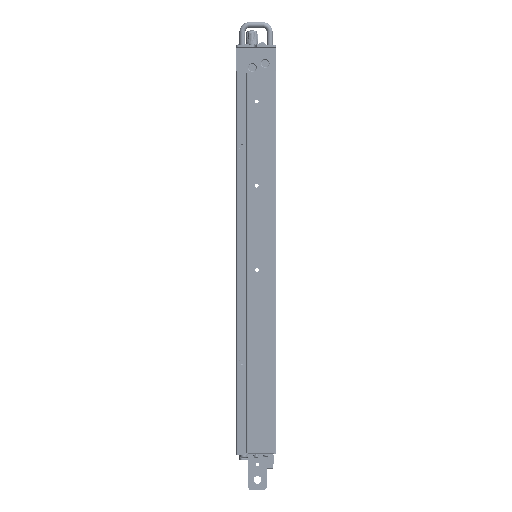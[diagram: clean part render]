
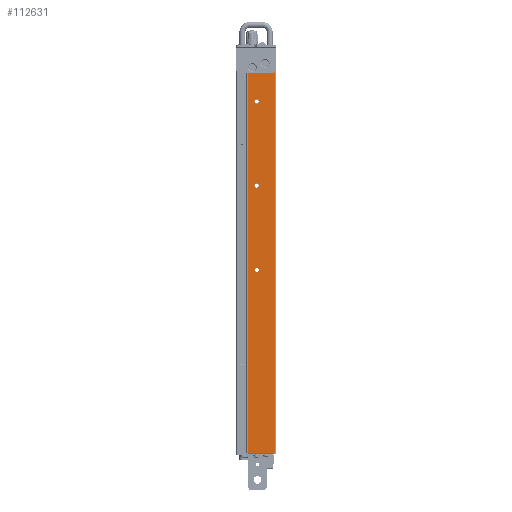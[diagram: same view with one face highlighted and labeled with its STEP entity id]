
A CAD part, left-side view. The second image highlights one B-rep face of the part: STEP entity #112631.
In plain terms, the highlighted planar face has unit normal (-1, 0, 0).
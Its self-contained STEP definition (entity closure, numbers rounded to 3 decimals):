
#100436=DIRECTION('',(0.,0.,-1.));
#100437=VECTOR('',#100436,433.8);
#100438=CARTESIAN_POINT('',(-211.5,1.5,0.));
#100439=LINE('',#100438,#100437);
#100522=DIRECTION('',(0.,-1.,0.));
#100523=VECTOR('',#100522,29.5);
#100524=CARTESIAN_POINT('',(-211.5,31.,0.));
#100525=LINE('',#100524,#100523);
#100534=DIRECTION('',(0.,0.,-1.));
#100535=VECTOR('',#100534,433.8);
#100536=CARTESIAN_POINT('',(-211.5,31.,0.));
#100537=LINE('',#100536,#100535);
#100538=CARTESIAN_POINT('',(-211.5,25.4,-4.7));
#100539=DIRECTION('',(1.,0.,0.));
#100540=DIRECTION('',(0.,0.,-1.));
#100541=AXIS2_PLACEMENT_3D('',#100538,#100539,#100540);
#100543=CARTESIAN_POINT('',(-211.5,25.4,-4.7));
#100544=DIRECTION('',(1.,0.,0.));
#100545=DIRECTION('',(0.,0.,1.));
#100546=AXIS2_PLACEMENT_3D('',#100543,#100544,#100545);
#100548=CARTESIAN_POINT('',(-211.5,25.8,-12.8));
#100549=DIRECTION('',(1.,0.,0.));
#100550=DIRECTION('',(0.,0.,1.));
#100551=AXIS2_PLACEMENT_3D('',#100548,#100549,#100550);
#100553=CARTESIAN_POINT('',(-211.5,25.8,-12.8));
#100554=DIRECTION('',(1.,0.,0.));
#100555=DIRECTION('',(0.,0.,-1.));
#100556=AXIS2_PLACEMENT_3D('',#100553,#100554,#100555);
#100558=CARTESIAN_POINT('',(-211.5,11.8,-8.3));
#100559=DIRECTION('',(1.,0.,0.));
#100560=DIRECTION('',(0.,0.,1.));
#100561=AXIS2_PLACEMENT_3D('',#100558,#100559,#100560);
#100563=CARTESIAN_POINT('',(-211.5,11.8,-8.3));
#100564=DIRECTION('',(1.,0.,0.));
#100565=DIRECTION('',(0.,0.,-1.));
#100566=AXIS2_PLACEMENT_3D('',#100563,#100564,#100565);
#100568=CARTESIAN_POINT('',(-211.5,21.,-49.8));
#100569=DIRECTION('',(1.,0.,0.));
#100570=DIRECTION('',(0.,0.,1.));
#100571=AXIS2_PLACEMENT_3D('',#100568,#100569,#100570);
#100573=CARTESIAN_POINT('',(-211.5,21.,-49.8));
#100574=DIRECTION('',(1.,0.,0.));
#100575=DIRECTION('',(0.,0.,-1.));
#100576=AXIS2_PLACEMENT_3D('',#100573,#100574,#100575);
#100578=CARTESIAN_POINT('',(-211.5,21.,-141.8));
#100579=DIRECTION('',(1.,0.,0.));
#100580=DIRECTION('',(0.,0.,1.));
#100581=AXIS2_PLACEMENT_3D('',#100578,#100579,#100580);
#100583=CARTESIAN_POINT('',(-211.5,21.,-141.8));
#100584=DIRECTION('',(1.,0.,0.));
#100585=DIRECTION('',(0.,0.,-1.));
#100586=AXIS2_PLACEMENT_3D('',#100583,#100584,#100585);
#100588=CARTESIAN_POINT('',(-211.5,21.,-233.8));
#100589=DIRECTION('',(1.,0.,0.));
#100590=DIRECTION('',(0.,0.,1.));
#100591=AXIS2_PLACEMENT_3D('',#100588,#100589,#100590);
#100593=CARTESIAN_POINT('',(-211.5,21.,-233.8));
#100594=DIRECTION('',(1.,0.,0.));
#100595=DIRECTION('',(0.,0.,-1.));
#100596=AXIS2_PLACEMENT_3D('',#100593,#100594,#100595);
#100598=DIRECTION('',(0.,-1.,0.));
#100599=VECTOR('',#100598,29.5);
#100600=CARTESIAN_POINT('',(-211.5,31.,-433.8));
#100601=LINE('',#100600,#100599);
#102004=CARTESIAN_POINT('',(-211.5,31.,0.));
#102005=CARTESIAN_POINT('',(-211.5,1.5,0.));
#102006=VERTEX_POINT('',#102004);
#102007=VERTEX_POINT('',#102005);
#102012=CARTESIAN_POINT('',(-211.5,31.,-433.8));
#102013=CARTESIAN_POINT('',(-211.5,1.5,-433.8));
#102014=VERTEX_POINT('',#102012);
#102015=VERTEX_POINT('',#102013);
#102640=CARTESIAN_POINT('',(-211.5,25.4,-8.15));
#102641=CARTESIAN_POINT('',(-211.5,25.4,-1.25));
#102642=VERTEX_POINT('',#102640);
#102643=VERTEX_POINT('',#102641);
#102672=CARTESIAN_POINT('',(-211.5,25.8,-11.15));
#102673=CARTESIAN_POINT('',(-211.5,25.8,-14.45));
#102674=VERTEX_POINT('',#102672);
#102675=VERTEX_POINT('',#102673);
#102676=CARTESIAN_POINT('',(-211.5,11.8,-6.65));
#102677=CARTESIAN_POINT('',(-211.5,11.8,-9.95));
#102678=VERTEX_POINT('',#102676);
#102679=VERTEX_POINT('',#102677);
#103456=CARTESIAN_POINT('',(-211.5,21.,-47.3));
#103457=CARTESIAN_POINT('',(-211.5,21.,-52.3));
#103458=VERTEX_POINT('',#103456);
#103459=VERTEX_POINT('',#103457);
#103460=CARTESIAN_POINT('',(-211.5,21.,-139.3));
#103461=CARTESIAN_POINT('',(-211.5,21.,-144.3));
#103462=VERTEX_POINT('',#103460);
#103463=VERTEX_POINT('',#103461);
#103464=CARTESIAN_POINT('',(-211.5,21.,-231.3));
#103465=CARTESIAN_POINT('',(-211.5,21.,-236.3));
#103466=VERTEX_POINT('',#103464);
#103467=VERTEX_POINT('',#103465);
#112582=CARTESIAN_POINT('',(-211.5,31.,0.));
#112583=DIRECTION('',(-1.,0.,0.));
#112584=DIRECTION('',(0.,-1.,0.));
#112585=AXIS2_PLACEMENT_3D('',#112582,#112583,#112584);
#112586=PLANE('',#112585);
#112587=ORIENTED_EDGE('',*,*,#112573,.T.);
#112588=ORIENTED_EDGE('',*,*,#112485,.T.);
#112590=ORIENTED_EDGE('',*,*,#112589,.F.);
#112592=ORIENTED_EDGE('',*,*,#112591,.F.);
#112593=EDGE_LOOP('',(#112587,#112588,#112590,#112592));
#112594=FACE_OUTER_BOUND('',#112593,.F.);
#112596=ORIENTED_EDGE('',*,*,#112595,.F.);
#112598=ORIENTED_EDGE('',*,*,#112597,.F.);
#112599=EDGE_LOOP('',(#112596,#112598));
#112600=FACE_BOUND('',#112599,.F.);
#112602=ORIENTED_EDGE('',*,*,#112601,.F.);
#112604=ORIENTED_EDGE('',*,*,#112603,.F.);
#112605=EDGE_LOOP('',(#112602,#112604));
#112606=FACE_BOUND('',#112605,.F.);
#112608=ORIENTED_EDGE('',*,*,#112607,.F.);
#112610=ORIENTED_EDGE('',*,*,#112609,.F.);
#112611=EDGE_LOOP('',(#112608,#112610));
#112612=FACE_BOUND('',#112611,.F.);
#112614=ORIENTED_EDGE('',*,*,#112613,.F.);
#112616=ORIENTED_EDGE('',*,*,#112615,.F.);
#112617=EDGE_LOOP('',(#112614,#112616));
#112618=FACE_BOUND('',#112617,.F.);
#112620=ORIENTED_EDGE('',*,*,#112619,.F.);
#112622=ORIENTED_EDGE('',*,*,#112621,.F.);
#112623=EDGE_LOOP('',(#112620,#112622));
#112624=FACE_BOUND('',#112623,.F.);
#112626=ORIENTED_EDGE('',*,*,#112625,.F.);
#112628=ORIENTED_EDGE('',*,*,#112627,.F.);
#112629=EDGE_LOOP('',(#112626,#112628));
#112630=FACE_BOUND('',#112629,.F.);
#112631=ADVANCED_FACE('',(#112594,#112600,#112606,#112612,#112618,#112624,
#112630),#112586,.T.);
#100542=CIRCLE('',#100541,3.45);
#100547=CIRCLE('',#100546,3.45);
#100552=CIRCLE('',#100551,1.65);
#100557=CIRCLE('',#100556,1.65);
#100562=CIRCLE('',#100561,1.65);
#100567=CIRCLE('',#100566,1.65);
#100572=CIRCLE('',#100571,2.5);
#100577=CIRCLE('',#100576,2.5);
#100582=CIRCLE('',#100581,2.5);
#100587=CIRCLE('',#100586,2.5);
#100592=CIRCLE('',#100591,2.5);
#100597=CIRCLE('',#100596,2.5);
#112485=EDGE_CURVE('',#102007,#102015,#100439,.T.);
#112573=EDGE_CURVE('',#102006,#102007,#100525,.T.);
#112589=EDGE_CURVE('',#102014,#102015,#100601,.T.);
#112591=EDGE_CURVE('',#102006,#102014,#100537,.T.);
#112595=EDGE_CURVE('',#102642,#102643,#100542,.T.);
#112597=EDGE_CURVE('',#102643,#102642,#100547,.T.);
#112601=EDGE_CURVE('',#102674,#102675,#100552,.T.);
#112603=EDGE_CURVE('',#102675,#102674,#100557,.T.);
#112607=EDGE_CURVE('',#102678,#102679,#100562,.T.);
#112609=EDGE_CURVE('',#102679,#102678,#100567,.T.);
#112613=EDGE_CURVE('',#103458,#103459,#100572,.T.);
#112615=EDGE_CURVE('',#103459,#103458,#100577,.T.);
#112619=EDGE_CURVE('',#103462,#103463,#100582,.T.);
#112621=EDGE_CURVE('',#103463,#103462,#100587,.T.);
#112625=EDGE_CURVE('',#103466,#103467,#100592,.T.);
#112627=EDGE_CURVE('',#103467,#103466,#100597,.T.);
